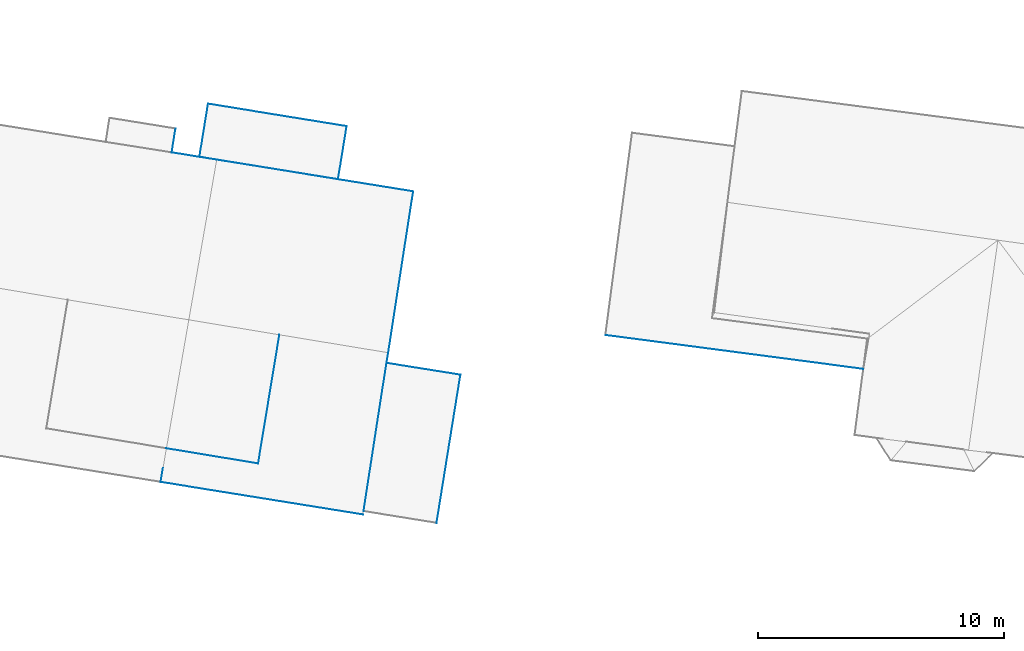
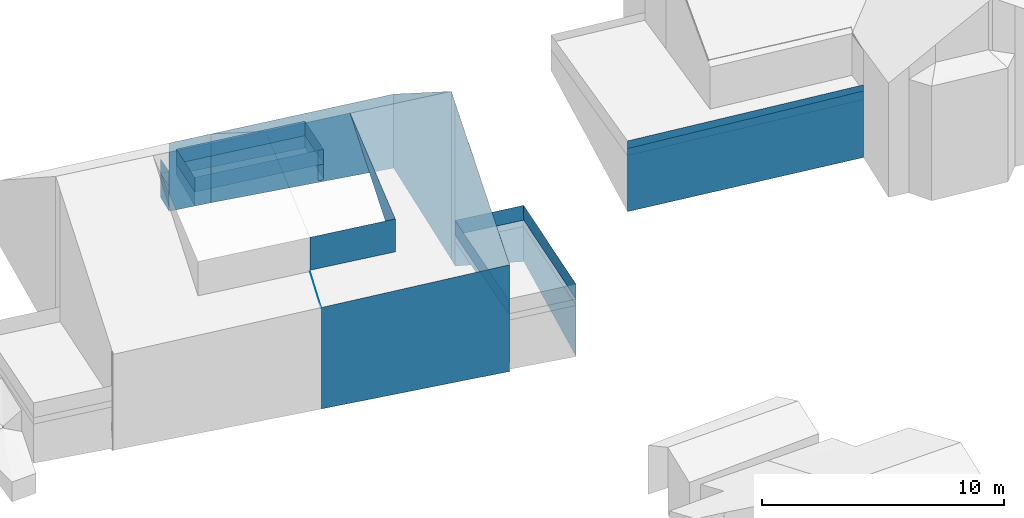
# Not in any storey, part 28 of 57: 38 walls.
"""IFC4 building model written with IfcOpenShell, lengths in metres."""

from ifc_helpers import new_model, entity, si_unit, converted_unit, frame, origin, place, context, subcontext, project, spatial, face_set, surface_model, element, save


model = new_model("IFC4")

# Units and contexts
model_context = context("Model", 3, precision=1e-05, world=origin())
body_context = subcontext(model_context, "Body", "Model", "MODEL_VIEW")
ifc_project = project(units=[converted_unit("PLANEANGLEUNIT", "DEGREE", entity("IfcRatioMeasure", 0.0174532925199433), si_unit("PLANEANGLEUNIT", "RADIAN"), dimensions=[0, 0, 0, 0, 0, 0, 0]), si_unit("AREAUNIT", "SQUARE_METRE"), si_unit("LENGTHUNIT", "METRE")], contexts=[model_context])

# Site, building
site_placement = place(None, origin())
site = spatial("IfcSite", under=ifc_project, at=site_placement, Name="_site")
building_1_placement = place(site_placement, origin())
building_1 = spatial("IfcBuilding", under=site, at=building_1_placement, Name="_building")

# Walls
wall_1_placement = place(building_1_placement, origin())
element("IfcWall", 1, at=wall_1_placement, inside=building_1, Name="Wall", PredefinedType="NOTDEFINED", context=body_context, shape_type="SurfaceModel", body=[
    surface_model("IfcFaceBasedSurfaceModel", [(233.55, 89.753, 110.25), (223.086, 91.129, 110.17), (223.086, 91.129, 106.988), (233.55, 89.753, 106.893)], [face_set([[[0, 1, 2, 3]]])]),
])
for number, where, name in (
    (2, (0.0, 0.0, 0.0), "Wall"),
    (3, (0.0, 0.0, 0.0), "Wall"),
):
    element("IfcWall", number, at=place(building_1_placement, frame(where)), inside=building_1, Name=name, PredefinedType="NOTDEFINED", context=body_context, shape_type="SurfaceModel", body=[
        surface_model("IfcFaceBasedSurfaceModel", [(223.086, 91.129, 109.81), (233.55, 89.753, 109.81), (233.55, 89.753, 110.56), (223.086, 91.129, 110.56)], [face_set([[[0, 1, 2, 3]]])]),
    ])

# Building
building_2_placement = place(site_placement, origin())
building_2 = spatial("IfcBuilding", under=site, at=building_2_placement, Name="_building")

# Walls
wall_2_placement = place(building_2_placement, origin())
element("IfcWall", 4, at=wall_2_placement, inside=building_2, Name="Wall", PredefinedType="NOTDEFINED", context=body_context, shape_type="SurfaceModel", body=[
    surface_model("IfcFaceBasedSurfaceModel", [(217.204, 89.515, 109.6), (216.233, 83.505, 109.6), (216.233, 83.505, 109.28), (217.204, 89.515, 109.28)], [face_set([[[0, 1, 2, 3]]])]),
])
wall_3_placement = place(building_2_placement, origin())
element("IfcWall", 5, at=wall_3_placement, inside=building_2, Name="Wall", PredefinedType="NOTDEFINED", context=body_context, shape_type="SurfaceModel", body=[
    surface_model("IfcFaceBasedSurfaceModel", [(214.204, 89.996, 109.6), (217.204, 89.515, 109.6), (217.204, 89.515, 109.28), (214.204, 89.996, 109.28)], [face_set([[[0, 1, 2, 3]]])]),
])
wall_4_placement = place(building_2_placement, origin())
element("IfcWall", 6, at=wall_4_placement, inside=building_2, Name="Wall", PredefinedType="NOTDEFINED", context=body_context, shape_type="SurfaceModel", body=[
    surface_model("IfcFaceBasedSurfaceModel", [(217.204, 89.515, 109.28), (216.233, 83.505, 109.28), (216.233, 83.505, 106.702), (217.204, 89.515, 107.51)], [face_set([[[0, 1, 2, 3]]])]),
])
wall_5_placement = place(building_2_placement, origin())
element("IfcWall", 7, at=wall_5_placement, inside=building_2, Name="Wall", PredefinedType="NOTDEFINED", context=body_context, shape_type="SurfaceModel", body=[
    surface_model("IfcFaceBasedSurfaceModel", [(214.204, 89.996, 109.28), (217.204, 89.515, 109.28), (217.204, 89.515, 107.51), (214.204, 89.996, 108.041)], [face_set([[[0, 1, 2, 3]]])]),
])
wall_6_placement = place(building_2_placement, origin())
element("IfcWall", 8, at=wall_6_placement, inside=building_2, Name="Wall", PredefinedType="NOTDEFINED", context=body_context, shape_type="SurfaceModel", body=[
    surface_model("IfcFaceBasedSurfaceModel", [(214.204, 89.996, 109.6), (213.273, 83.984, 109.6), (213.273, 83.984, 110.35), (214.204, 89.996, 110.35)], [face_set([[[0, 1, 2, 3]]])]),
])
wall_7_placement = place(building_2_placement, origin())
element("IfcWall", 9, at=wall_7_placement, inside=building_2, Name="Wall", PredefinedType="NOTDEFINED", context=body_context, shape_type="SurfaceModel", body=[
    surface_model("IfcFaceBasedSurfaceModel", [(217.204, 89.515, 109.6), (214.204, 89.996, 109.6), (214.204, 89.996, 110.35), (217.204, 89.515, 110.35)], [face_set([[[0, 1, 2, 3]]])]),
])
wall_8_placement = place(building_2_placement, origin())
element("IfcWall", 10, at=wall_8_placement, inside=building_2, Name="Wall", PredefinedType="NOTDEFINED", context=body_context, shape_type="SurfaceModel", body=[
    surface_model("IfcFaceBasedSurfaceModel", [(216.233, 83.505, 109.6), (217.204, 89.515, 109.6), (217.204, 89.515, 110.35), (216.233, 83.505, 110.35)], [face_set([[[0, 1, 2, 3]]])]),
])
wall_9_placement = place(building_2_placement, origin())
element("IfcWall", 11, at=wall_9_placement, inside=building_2, Name="Wall", PredefinedType="NOTDEFINED", context=body_context, shape_type="SurfaceModel", body=[
    surface_model("IfcFaceBasedSurfaceModel", [(214.204, 89.996, 109.6), (213.273, 83.984, 109.6), (213.273, 83.984, 110.35), (214.204, 89.996, 110.35)], [face_set([[[0, 1, 2, 3]]])]),
])
wall_10_placement = place(building_2_placement, origin())
element("IfcWall", 12, at=wall_10_placement, inside=building_2, Name="Wall", PredefinedType="NOTDEFINED", context=body_context, shape_type="SurfaceModel", body=[
    surface_model("IfcFaceBasedSurfaceModel", [(217.204, 89.515, 109.6), (214.204, 89.996, 109.6), (214.204, 89.996, 110.35), (217.204, 89.515, 110.35)], [face_set([[[0, 1, 2, 3]]])]),
])
wall_11_placement = place(building_2_placement, origin())
element("IfcWall", 13, at=wall_11_placement, inside=building_2, Name="Wall", PredefinedType="NOTDEFINED", context=body_context, shape_type="SurfaceModel", body=[
    surface_model("IfcFaceBasedSurfaceModel", [(216.233, 83.505, 109.6), (217.204, 89.515, 109.6), (217.204, 89.515, 110.35), (216.233, 83.505, 110.35)], [face_set([[[0, 1, 2, 3]]])]),
])

# Building
building_3_placement = place(site_placement, origin())
building_3 = spatial("IfcBuilding", under=site, at=building_3_placement, Name="_building")

# Walls
wall_12_placement = place(building_3_placement, origin())
element("IfcWall", 14, at=wall_12_placement, inside=building_3, Name="Wall", PredefinedType="NOTDEFINED", context=body_context, shape_type="SurfaceModel", body=[
    surface_model("IfcFaceBasedSurfaceModel", [(205.641, 99.503, 109.94), (205.488, 98.535, 109.94), (205.488, 98.535, 108.677), (205.641, 99.503, 108.739)], [face_set([[[0, 1, 2, 3]]])]),
])
wall_13_placement = place(building_3_placement, origin())
element("IfcWall", 15, at=wall_13_placement, inside=building_3, Name="Wall", PredefinedType="NOTDEFINED", context=body_context, shape_type="SurfaceModel", body=[
    surface_model("IfcFaceBasedSurfaceModel", [(205.641, 99.503, 110.22), (205.488, 98.535, 110.22), (205.488, 98.535, 108.677), (205.641, 99.503, 108.739)], [face_set([[[0, 1, 2, 3]]])]),
])
wall_14_placement = place(building_3_placement, origin())
element("IfcWall", 16, at=wall_14_placement, inside=building_3, Name="Wall", PredefinedType="NOTDEFINED", context=body_context, shape_type="SurfaceModel", body=[
    surface_model("IfcFaceBasedSurfaceModel", [(205.488, 98.535, 112.12), (207.312, 98.242, 112.12), (207.312, 98.242, 108.645), (205.488, 98.535, 108.677)], [face_set([[[0, 1, 2, 3]]])]),
])
for number, where, name in (
    (17, (0.0, 0.0, 0.0), "Wall"),
    (18, (0.0, 0.0, 0.0), "Wall"),
):
    element("IfcWall", number, at=place(building_3_placement, frame(where)), inside=building_3, Name=name, PredefinedType="NOTDEFINED", context=body_context, shape_type="SurfaceModel", body=[
        surface_model("IfcFaceBasedSurfaceModel", [(205.641, 99.503, 109.94), (205.488, 98.535, 109.94), (205.488, 98.535, 110.69), (205.641, 99.503, 110.69)], [face_set([[[0, 1, 2, 3]]])]),
    ])

# Building
building_4_placement = place(site_placement, origin())
building_4 = spatial("IfcBuilding", under=site, at=building_4_placement, Name="_building")

# Walls
wall_15_placement = place(building_4_placement, origin())
element("IfcWall", 19, at=wall_15_placement, inside=building_4, Name="Wall", PredefinedType="NOTDEFINED", context=body_context, shape_type="SurfaceModel", body=[
    surface_model("IfcFaceBasedSurfaceModel", [(212.237, 97.447, 109.36), (206.615, 98.359, 109.36), (206.615, 98.359, 108.655), (212.237, 97.447, 108.577)], [face_set([[[0, 1, 2, 3]]])]),
])
wall_16_placement = place(building_4_placement, origin())
element("IfcWall", 20, at=wall_16_placement, inside=building_4, Name="Wall", PredefinedType="NOTDEFINED", context=body_context, shape_type="SurfaceModel", body=[
    surface_model("IfcFaceBasedSurfaceModel", [(208.995, 85.916, 114.72), (205.272, 86.532, 114.72), (205.272, 86.532, 113.056), (208.995, 85.916, 113.056)], [face_set([[[0, 1, 2, 3]]])]),
])
wall_17_placement = place(building_4_placement, origin())
element("IfcWall", 21, at=wall_17_placement, inside=building_4, Name="Wall", PredefinedType="NOTDEFINED", context=body_context, shape_type="SurfaceModel", body=[
    surface_model("IfcFaceBasedSurfaceModel", [(206.965, 100.512, 109.36), (212.587, 99.6, 109.36), (212.587, 99.6, 108.746), (206.965, 100.512, 108.817)], [face_set([[[0, 1, 2, 3]]])]),
])
wall_18_placement = place(building_4_placement, origin())
element("IfcWall", 22, at=wall_18_placement, inside=building_4, Name="Wall", PredefinedType="NOTDEFINED", context=body_context, shape_type="SurfaceModel", body=[
    surface_model("IfcFaceBasedSurfaceModel", [(212.587, 99.6, 109.36), (212.237, 97.447, 109.36), (212.237, 97.447, 108.577), (212.587, 99.6, 108.746)], [face_set([[[0, 1, 2, 3]]])]),
])
wall_19_placement = place(building_4_placement, origin())
element("IfcWall", 23, at=wall_19_placement, inside=building_4, Name="Wall", PredefinedType="NOTDEFINED", context=body_context, shape_type="SurfaceModel", body=[
    surface_model("IfcFaceBasedSurfaceModel", [(206.615, 98.359, 109.36), (206.965, 100.512, 109.36), (206.965, 100.512, 108.817), (206.615, 98.359, 108.655)], [face_set([[[0, 1, 2, 3]]])]),
])
wall_20_placement = place(building_4_placement, origin())
element("IfcWall", 24, at=wall_20_placement, inside=building_4, Name="Wall", PredefinedType="NOTDEFINED", context=body_context, shape_type="SurfaceModel", body=[
    surface_model("IfcFaceBasedSurfaceModel", [(205.035, 85.168, 112.09), (205.272, 86.532, 113.056), (205.272, 86.532, 112.995), (205.035, 85.168, 112.04)], [face_set([[[0, 1, 2, 3]]])]),
])
wall_21_placement = place(building_4_placement, origin())
element("IfcWall", 25, at=wall_21_placement, inside=building_4, Name="Wall", PredefinedType="NOTDEFINED", context=body_context, shape_type="SurfaceModel", body=[
    surface_model("IfcFaceBasedSurfaceModel", [(213.249, 83.845, 112.17), (205.035, 85.168, 112.09), (205.035, 85.168, 106.97), (213.249, 83.845, 106.787)], [face_set([[[0, 1, 2, 3]]])]),
])
wall_22_placement = place(building_4_placement, origin())
element("IfcWall", 26, at=wall_22_placement, inside=building_4, Name="Wall", PredefinedType="NOTDEFINED", context=body_context, shape_type="SurfaceModel", body=[
    surface_model("IfcFaceBasedSurfaceModel", [(214.274, 90.415, 116.58), (214.204, 89.996, 116.3), (214.204, 89.996, 108.041), (214.274, 90.415, 108.074)], [face_set([[[0, 1, 2, 3]]])]),
])
wall_23_placement = place(building_4_placement, origin())
element("IfcWall", 27, at=wall_23_placement, inside=building_4, Name="Wall", PredefinedType="NOTDEFINED", context=body_context, shape_type="SurfaceModel", body=[
    surface_model("IfcFaceBasedSurfaceModel", [(214.204, 89.996, 116.3), (213.273, 83.984, 112.26), (213.273, 83.984, 109.28), (214.204, 89.996, 109.28)], [face_set([[[0, 1, 2, 3]]])]),
])
wall_24_placement = place(building_4_placement, origin())
element("IfcWall", 28, at=wall_24_placement, inside=building_4, Name="Wall", PredefinedType="NOTDEFINED", context=body_context, shape_type="SurfaceModel", body=[
    surface_model("IfcFaceBasedSurfaceModel", [(209.859, 91.142, 116.58), (208.995, 85.916, 114.72), (208.995, 85.916, 113.056), (209.859, 91.142, 116.56)], [face_set([[[0, 1, 2, 3]]])]),
])
wall_25_placement = place(building_4_placement, origin())
element("IfcWall", 29, at=wall_25_placement, inside=building_4, Name="Wall", PredefinedType="NOTDEFINED", context=body_context, shape_type="SurfaceModel", body=[
    surface_model("IfcFaceBasedSurfaceModel", [(215.287, 96.955, 112.12), (214.274, 90.415, 116.58), (214.274, 90.415, 108.074), (215.287, 96.955, 108.383)], [face_set([[[0, 1, 2, 3]]])]),
])
wall_26_placement = place(building_4_placement, origin())
element("IfcWall", 30, at=wall_26_placement, inside=building_4, Name="Wall", PredefinedType="NOTDEFINED", context=body_context, shape_type="SurfaceModel", body=[
    surface_model("IfcFaceBasedSurfaceModel", [(207.312, 98.242, 112.12), (215.287, 96.955, 112.12), (215.287, 96.955, 108.383), (207.312, 98.242, 108.645)], [face_set([[[0, 1, 2, 3]]])]),
])
wall_27_placement = place(building_4_placement, origin())
element("IfcWall", 31, at=wall_27_placement, inside=building_4, Name="Wall", PredefinedType="NOTDEFINED", context=body_context, shape_type="SurfaceModel", body=[
    surface_model("IfcFaceBasedSurfaceModel", [(206.615, 98.359, 109.36), (206.965, 100.512, 109.36), (206.965, 100.512, 110.11), (206.615, 98.359, 110.11)], [face_set([[[0, 1, 2, 3]]])]),
])
wall_28_placement = place(building_4_placement, origin())
element("IfcWall", 32, at=wall_28_placement, inside=building_4, Name="Wall", PredefinedType="NOTDEFINED", context=body_context, shape_type="SurfaceModel", body=[
    surface_model("IfcFaceBasedSurfaceModel", [(212.587, 99.6, 109.36), (212.237, 97.447, 109.36), (212.237, 97.447, 110.11), (212.587, 99.6, 110.11)], [face_set([[[0, 1, 2, 3]]])]),
])
wall_29_placement = place(building_4_placement, origin())
element("IfcWall", 33, at=wall_29_placement, inside=building_4, Name="Wall", PredefinedType="NOTDEFINED", context=body_context, shape_type="SurfaceModel", body=[
    surface_model("IfcFaceBasedSurfaceModel", [(206.965, 100.512, 109.36), (212.587, 99.6, 109.36), (212.587, 99.6, 110.11), (206.965, 100.512, 110.11)], [face_set([[[0, 1, 2, 3]]])]),
])
wall_30_placement = place(building_4_placement, origin())
element("IfcWall", 34, at=wall_30_placement, inside=building_4, Name="Wall", PredefinedType="NOTDEFINED", context=body_context, shape_type="SurfaceModel", body=[
    surface_model("IfcFaceBasedSurfaceModel", [(212.237, 97.447, 109.36), (206.615, 98.359, 109.36), (206.615, 98.359, 110.11), (212.237, 97.447, 110.11)], [face_set([[[0, 1, 2, 3]]])]),
])
wall_31_placement = place(building_4_placement, origin())
element("IfcWall", 35, at=wall_31_placement, inside=building_4, Name="Wall", PredefinedType="NOTDEFINED", context=body_context, shape_type="SurfaceModel", body=[
    surface_model("IfcFaceBasedSurfaceModel", [(212.587, 99.6, 109.36), (212.237, 97.447, 109.36), (212.237, 97.447, 110.11), (212.587, 99.6, 110.11)], [face_set([[[0, 1, 2, 3]]])]),
])
wall_32_placement = place(building_4_placement, origin())
element("IfcWall", 36, at=wall_32_placement, inside=building_4, Name="Wall", PredefinedType="NOTDEFINED", context=body_context, shape_type="SurfaceModel", body=[
    surface_model("IfcFaceBasedSurfaceModel", [(206.965, 100.512, 109.36), (212.587, 99.6, 109.36), (212.587, 99.6, 110.11), (206.965, 100.512, 110.11)], [face_set([[[0, 1, 2, 3]]])]),
])
wall_33_placement = place(building_4_placement, origin())
element("IfcWall", 37, at=wall_33_placement, inside=building_4, Name="Wall", PredefinedType="NOTDEFINED", context=body_context, shape_type="SurfaceModel", body=[
    surface_model("IfcFaceBasedSurfaceModel", [(206.615, 98.359, 109.36), (206.965, 100.512, 109.36), (206.965, 100.512, 110.11), (206.615, 98.359, 110.11)], [face_set([[[0, 1, 2, 3]]])]),
])
wall_34_placement = place(building_4_placement, origin())
element("IfcWall", 38, at=wall_34_placement, inside=building_4, Name="Wall", PredefinedType="NOTDEFINED", context=body_context, shape_type="SurfaceModel", body=[
    surface_model("IfcFaceBasedSurfaceModel", [(212.237, 97.447, 109.36), (206.615, 98.359, 109.36), (206.615, 98.359, 110.11), (212.237, 97.447, 110.11)], [face_set([[[0, 1, 2, 3]]])]),
])

save(model, "model.ifc")
